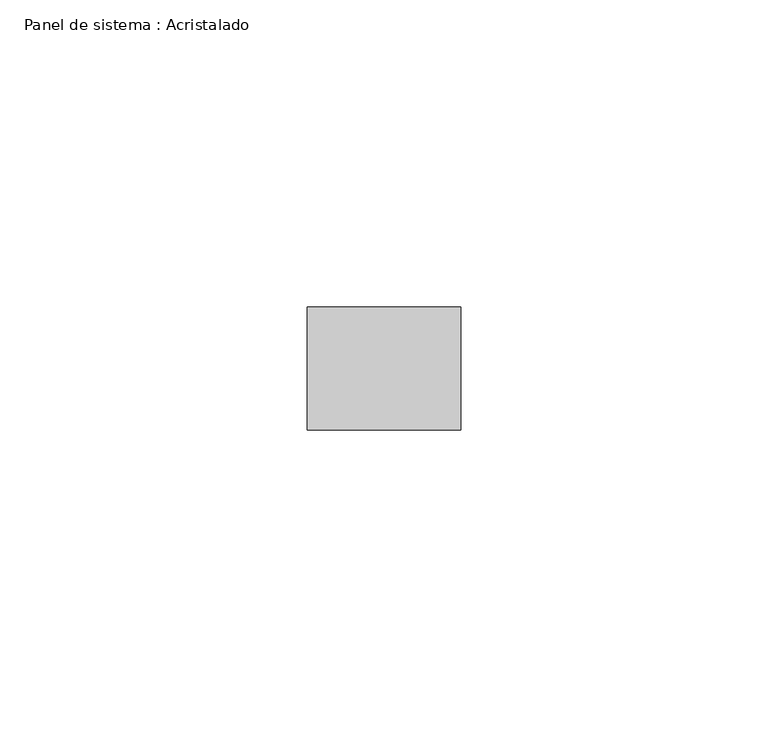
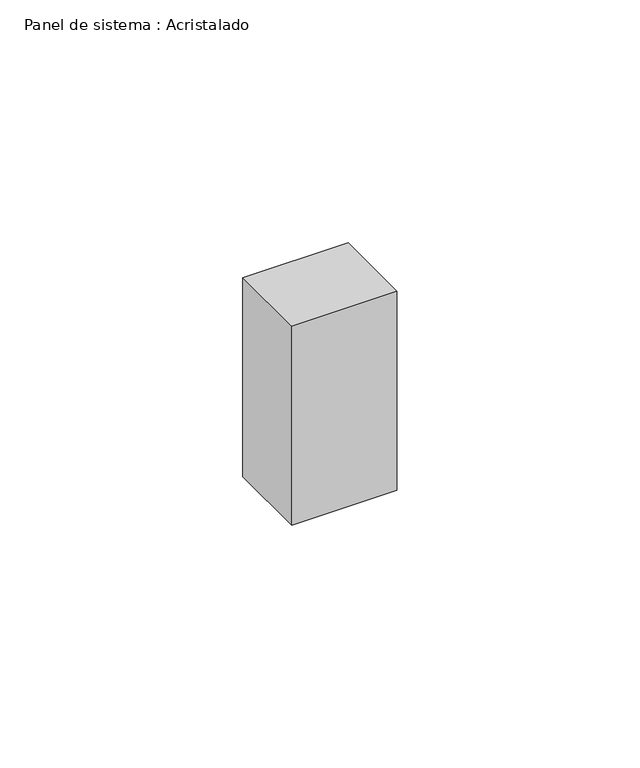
"""IFC4 building model written with IfcOpenShell, lengths in millimetres: plate geometry, Panel de sistema : Acristalado."""

from ifc_helpers import new_model, si_unit, origin, origin_with_axes, place, context, project, spatial, polyline, outline, extrude, source, transform, mapped, element, save


def panel_de_sistema_acristalado_217a9de0(model_context):
    return source(origin(), model_context, "Body", "SweptSolid", [
        extrude(outline(polyline([(12.5, -10.0), (-12.5, -10.0), (-12.5, 10.0), (12.5, 10.0), (12.5, -10.0)])), origin_with_axes(), (0.0, 0.0, 1.0), 50.0),
    ])


if __name__ == "__main__":
    model = new_model("IFC4")
    model_context = context("Model", 3, world=origin())
    ifc_project = project(units=[si_unit("LENGTHUNIT", "METRE", prefix="MILLI")], contexts=[model_context])
    site = spatial("IfcSite", under=ifc_project)
    building = spatial("IfcBuilding", under=site)
    placement = place(None, origin())
    panel_de_sistema_acristalado_shape = panel_de_sistema_acristalado_217a9de0(model_context)
    element("IfcPlate", 1, ObjectType="Panel de sistema : Acristalado", at=placement, inside=building, context=model_context, shape_type="MappedRepresentation", body=[
        mapped(panel_de_sistema_acristalado_shape, transform((0.0, 0.0, 0.0), x_axis=(1.0, 0.0, 0.0), y_axis=(0.0, 1.0, 0.0), z_axis=(0.0, 0.0, 1.0))),
    ])
    save(model, "model.ifc")
